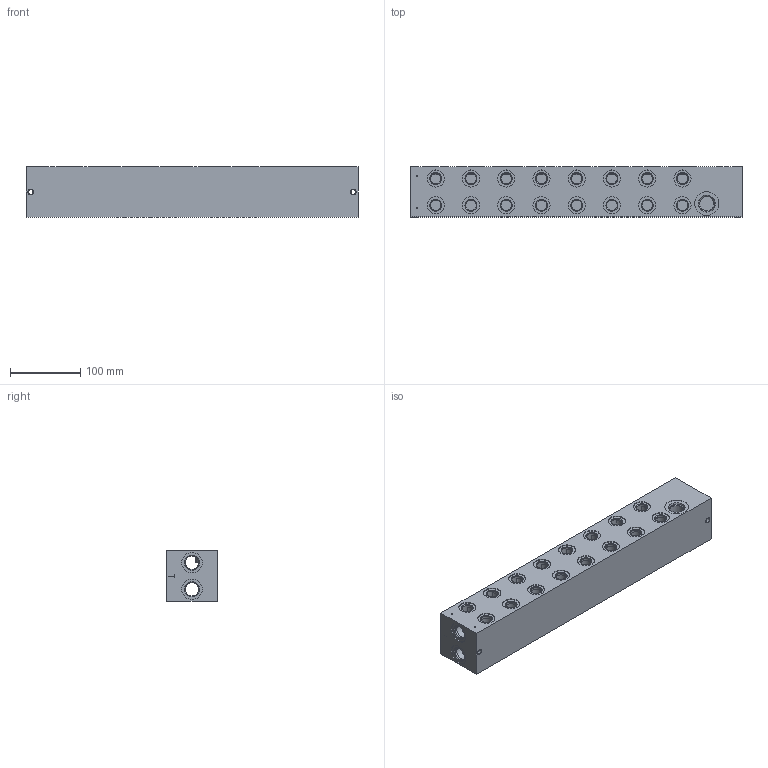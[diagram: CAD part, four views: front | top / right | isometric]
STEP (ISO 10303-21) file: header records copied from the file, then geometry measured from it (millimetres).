
FILE_DESCRIPTION((''),'2;1');
FILE_NAME('27564200','2015-11-27T',('Ahcz.brigadnik05'),(''),'PRO/ENGINEER BY PARAMETRIC TECHNOLOGY CORPORATION, 2015110','PRO/ENGINEER BY PARAMETRIC TECHNOLOGY CORPORATION, 2015110','');
FILE_SCHEMA(('AUTOMOTIVE_DESIGN { 1 0 10303 214 1 1 1 1 }'));
Length unit declared in the file: millimetre
Products named in the file (1): 27564200
Bounding box: 471 x 71 x 71 mm (x, y, z)
Volume: 770266.7 mm3; surface area: 290551.9 mm2
Topology: 1 solids, 61 shells, 516 faces, 2034 edges, 2029 vertices
Faces by surface type: cylinder 358, plane 98, cone 60
Entity records: 29842 total; most frequent: CARTESIAN_POINT 6185, DIRECTION 3768, ORIENTED_EDGE 2564, PRESENTATION_STYLE_ASSIGNMENT 2156, STYLED_ITEM 2156, CURVE_STYLE 2089, EDGE_CURVE 1402, AXIS2_PLACEMENT_3D 1333
